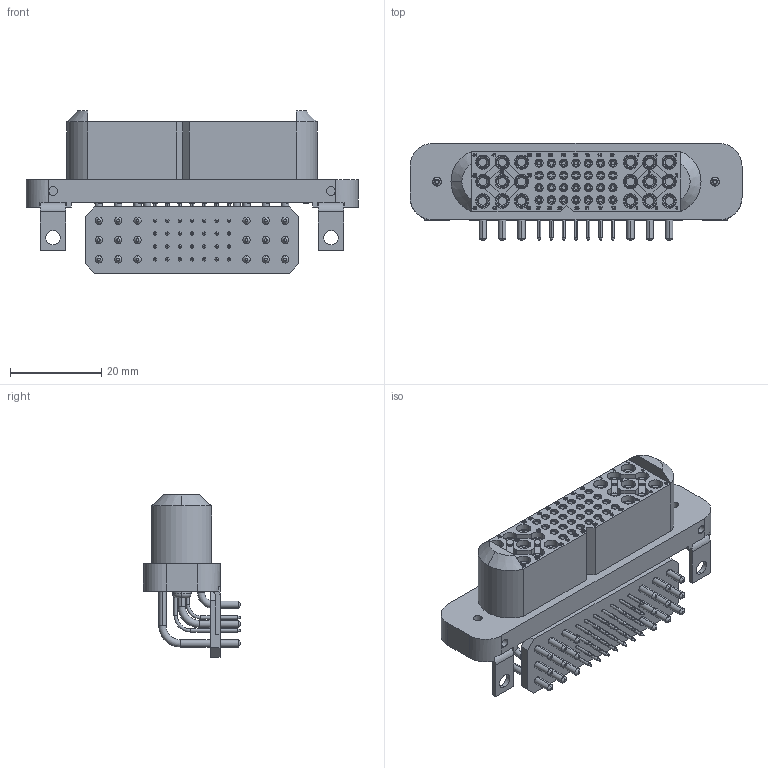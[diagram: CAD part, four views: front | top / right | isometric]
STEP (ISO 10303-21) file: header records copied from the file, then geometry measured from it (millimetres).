
FILE_DESCRIPTION (( 'STEP AP203' ), '1' );
FILE_NAME ('GFSH928F4B.STEP', '2025-01-10T06:25:24', ( '' ), ( '' ), 'SwSTEP 2.0', 'SolidWorks 2021', '' );
FILE_SCHEMA (( 'CONFIG_CONTROL_DESIGN' ));
Length unit declared in the file: millimetre
Products named in the file (1): GFSH928F4B
Bounding box: 72.86 x 21.29 x 35.58 mm (x, y, z)
Volume: 16790.2 mm3; surface area: 11582.3 mm2
Topology: 1 solids, 3 shells, 3513 faces, 9196 edges, 6038 vertices
Faces by surface type: plane 1608, bspline 807, cylinder 657, cone 345, torus 96
Entity records: 155465 total; most frequent: CARTESIAN_POINT 73483, ORIENTED_EDGE 18392, DIRECTION 14354, EDGE_CURVE 9196, VERTEX_POINT 6038, LINE 4836, VECTOR 4836, AXIS2_PLACEMENT_3D 4759
